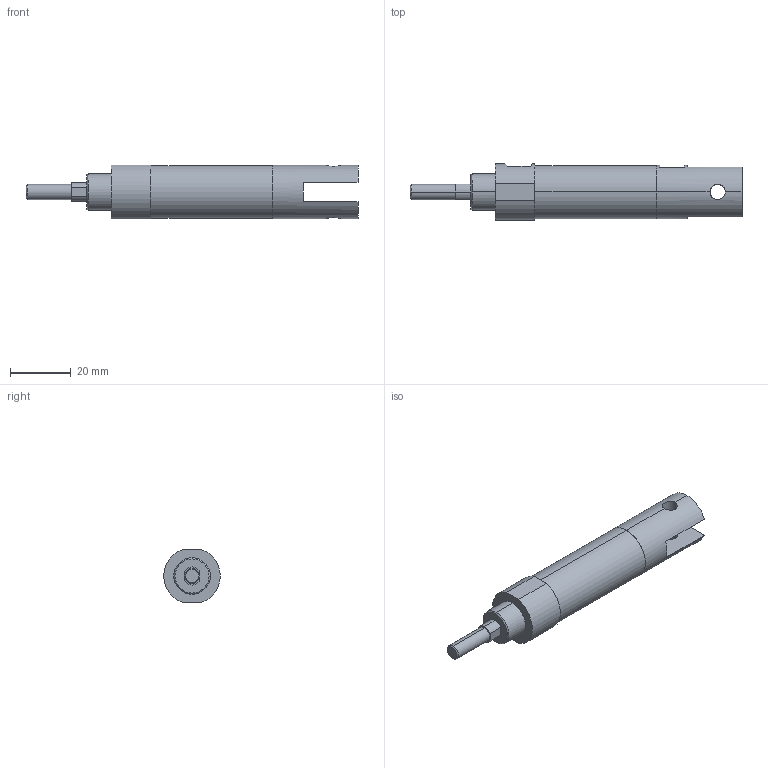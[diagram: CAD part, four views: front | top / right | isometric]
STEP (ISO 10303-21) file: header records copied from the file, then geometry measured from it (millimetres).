
FILE_DESCRIPTION (( 'STEP AP203' ), '1' );
FILE_NAME ('ZGU2-16-15-W.STEP', '2016-03-31T00:58:07', ( '' ), ( '' ), 'SwSTEP 2.0', 'SolidWorks 2014', '' );
FILE_SCHEMA (( 'CONFIG_CONTROL_DESIGN' ));
Length unit declared in the file: millimetre
Products named in the file (1): ZGU2-16-15-W
Bounding box: 109 x 18.46 x 17.6 mm (x, y, z)
Volume: 18520 mm3; surface area: 6283.3 mm2
Topology: 1 solids, 1 shells, 50 faces, 117 edges, 72 vertices
Faces by surface type: cylinder 21, plane 21, cone 8
Entity records: 1598 total; most frequent: CARTESIAN_POINT 358, DIRECTION 257, ORIENTED_EDGE 226, EDGE_CURVE 113, AXIS2_PLACEMENT_3D 99, VERTEX_POINT 72, EDGE_LOOP 61, LINE 59
